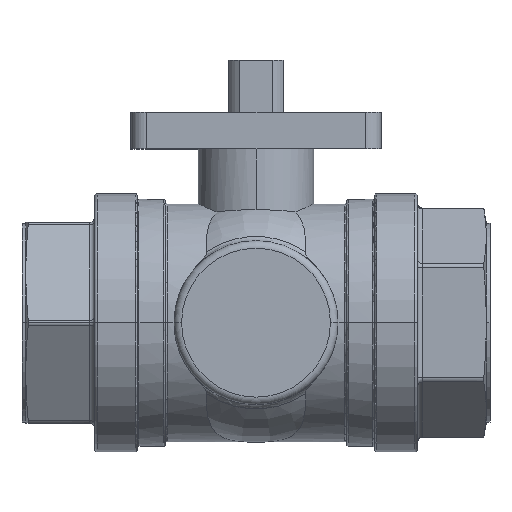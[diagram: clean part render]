
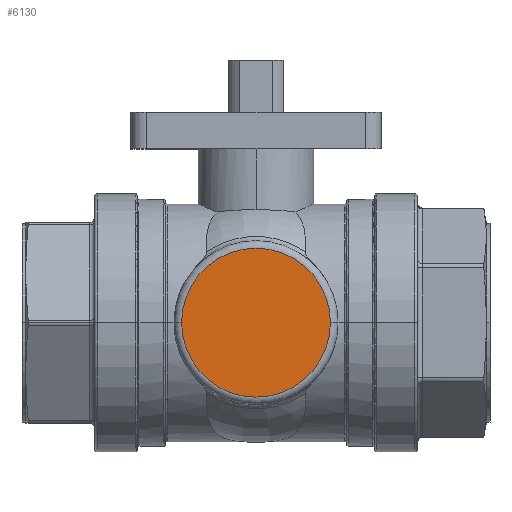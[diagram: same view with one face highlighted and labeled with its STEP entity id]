
A CAD part, top view. The second image highlights one B-rep face of the part: STEP entity #6130.
In plain terms, the highlighted planar face has unit normal (0, 0, 1).
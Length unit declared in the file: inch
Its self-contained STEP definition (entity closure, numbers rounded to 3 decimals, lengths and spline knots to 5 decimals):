
#355 = EDGE_CURVE ( 'NONE', #3372, #2638, #3562, .T. ) ;
#744 = EDGE_LOOP ( 'NONE', ( #5687, #4444 ) ) ;
#891 = CARTESIAN_POINT ( 'NONE',  ( 0., 0., 1.06 ) ) ;
#1475 = DIRECTION ( 'NONE',  ( 1., 0., 0. ) ) ;
#2327 = CIRCLE ( 'NONE', #7506, 0.595 ) ;
#2602 = AXIS2_PLACEMENT_3D ( 'NONE', #4675, #4257, #4314 ) ;
#2638 = VERTEX_POINT ( 'NONE', #3946 ) ;
#3372 = VERTEX_POINT ( 'NONE', #5744 ) ;
#3562 = CIRCLE ( 'NONE', #2602, 0.595 ) ;
#3824 = DIRECTION ( 'NONE',  ( 1., 0., 0. ) ) ;
#3918 = FACE_OUTER_BOUND ( 'NONE', #744, .T. ) ;
#3946 = CARTESIAN_POINT ( 'NONE',  ( 0.595, 0., 1.06 ) ) ;
#4257 = DIRECTION ( 'NONE',  ( 0., 0., 1. ) ) ;
#4314 = DIRECTION ( 'NONE',  ( 1., 0., 0. ) ) ;
#4345 = PLANE ( 'NONE',  #6723 ) ;
#4444 = ORIENTED_EDGE ( 'NONE', *, *, #355, .T. ) ;
#4675 = CARTESIAN_POINT ( 'NONE',  ( 0., 0., 1.06 ) ) ;
#5059 = DIRECTION ( 'NONE',  ( 0., 0., 1. ) ) ;
#5605 = CARTESIAN_POINT ( 'NONE',  ( 0., 0., 1.06 ) ) ;
#5687 = ORIENTED_EDGE ( 'NONE', *, *, #6133, .T. ) ;
#5744 = CARTESIAN_POINT ( 'NONE',  ( -0.595, 0., 1.06 ) ) ;
#6130 = ADVANCED_FACE ( 'NONE', ( #3918 ), #4345, .T. ) ;
#6133 = EDGE_CURVE ( 'NONE', #2638, #3372, #2327, .T. ) ;
#6723 = AXIS2_PLACEMENT_3D ( 'NONE', #5605, #7385, #3824 ) ;
#7385 = DIRECTION ( 'NONE',  ( 0., 0., 1. ) ) ;
#7506 = AXIS2_PLACEMENT_3D ( 'NONE', #891, #5059, #1475 ) ;
